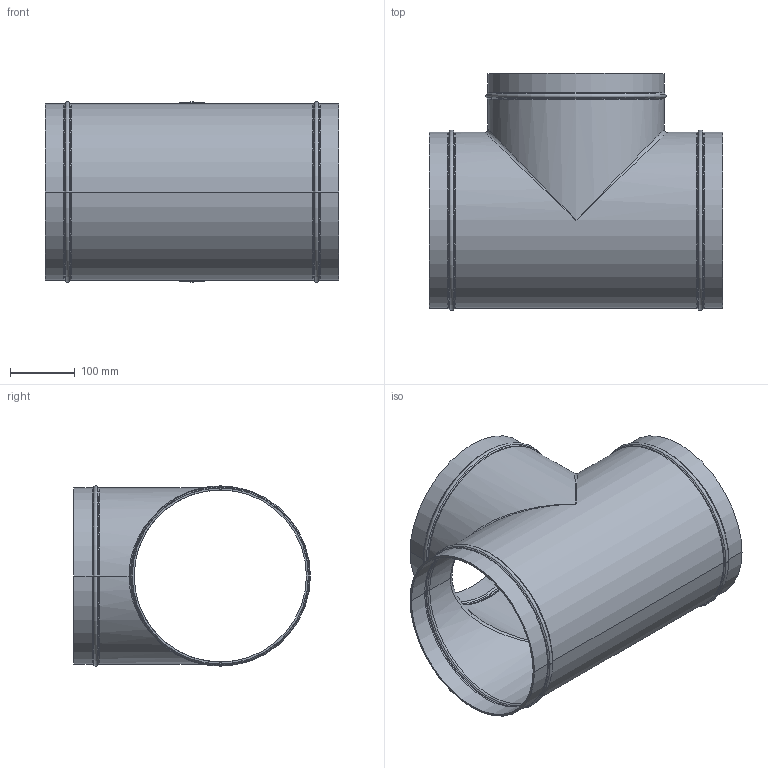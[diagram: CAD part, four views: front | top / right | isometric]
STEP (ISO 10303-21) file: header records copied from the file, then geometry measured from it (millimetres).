
FILE_DESCRIPTION(/* description */ (''),/* implementation_level */ '2;1');
FILE_NAME(/* name */ 'M005_stp.stp',/* time_stamp */ '2025-06-20T11:47:57+08:00',/* author */ (''),/* organization */ (''),/* preprocessor_version */ 'ST-DEVELOPER v14',/* originating_system */ 'SIEMENS PLM Software NX 8.0',/* authorisation */ '');
FILE_SCHEMA (('AP203_CONFIGURATION_CONTROLLED_3D_DESIGN_OF_MECHANICAL_PARTS_AND_ASSEMBLIES_MIM_LF { 1 0 10303 403 2 1 2}'));
Length unit declared in the file: millimetre
Products named in the file (1): Admi0BECFFFE4xvk
Bounding box: 455 x 367.28 x 279.56 mm (x, y, z)
Volume: 1317312.8 mm3; surface area: 884206.5 mm2
Topology: 1 solids, 1 shells, 95 faces, 204 edges, 110 vertices
Faces by surface type: torus 36, cone 24, cylinder 20, bspline 10, plane 5
Entity records: 4299 total; most frequent: CARTESIAN_POINT 2163, DIRECTION 476, ORIENTED_EDGE 408, AXIS2_PLACEMENT_3D 214, EDGE_CURVE 204, CIRCLE 128, VERTEX_POINT 110, EDGE_LOOP 98
